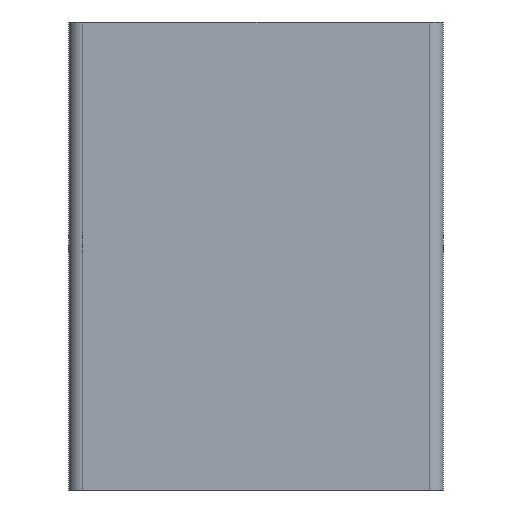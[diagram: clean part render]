
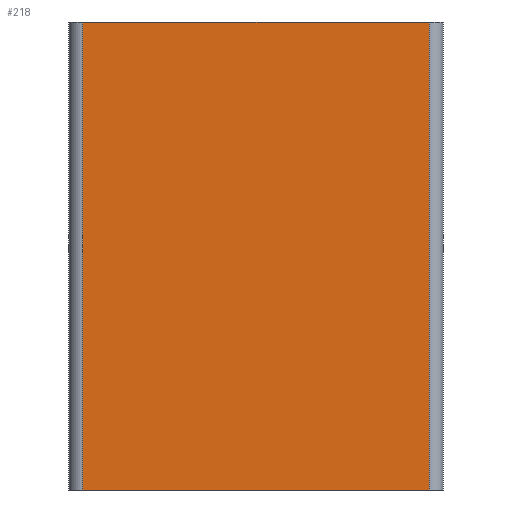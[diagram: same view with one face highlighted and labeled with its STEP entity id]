
A CAD part, left-side view. The second image highlights one B-rep face of the part: STEP entity #218.
In plain terms, the highlighted planar face has unit normal (-1, 0, 0).
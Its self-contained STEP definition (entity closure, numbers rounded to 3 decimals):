
#218=ADVANCED_FACE('',(#527),#528,.F.);
#527=FACE_OUTER_BOUND('',#926,.T.);
#528=PLANE('',#927);
#926=EDGE_LOOP('',(#1479,#1480,#1481,#1482));
#927=AXIS2_PLACEMENT_3D('',#1483,#1484,#1485);
#1479=ORIENTED_EDGE('',*,*,#2663,.T.);
#1480=ORIENTED_EDGE('',*,*,#2664,.F.);
#1481=ORIENTED_EDGE('',*,*,#2665,.F.);
#1482=ORIENTED_EDGE('',*,*,#2666,.T.);
#1483=CARTESIAN_POINT('',(0.,38.5,50.0));
#1484=DIRECTION('',(1.0,0.0,-0.0));
#1485=DIRECTION('',(0.0,0.0,1.0));
#2663=EDGE_CURVE('',#3289,#3290,#3291,.T.);
#2664=EDGE_CURVE('',#3292,#3290,#3293,.T.);
#2665=EDGE_CURVE('',#3294,#3292,#3295,.T.);
#2666=EDGE_CURVE('',#3294,#3289,#3296,.T.);
#3289=VERTEX_POINT('',#4155);
#3290=VERTEX_POINT('',#4156);
#3291=LINE('',#4157,#4158);
#3292=VERTEX_POINT('',#4159);
#3293=LINE('',#4160,#4161);
#3294=VERTEX_POINT('',#4162);
#3295=LINE('',#4163,#4164);
#3296=LINE('',#4165,#4166);
#4155=CARTESIAN_POINT('',(0.,38.5,0.0));
#4156=CARTESIAN_POINT('',(0.,1.5,0.0));
#4157=CARTESIAN_POINT('',(0.,38.5,0.0));
#4158=VECTOR('',#4988,1.0);
#4159=CARTESIAN_POINT('',(0.,1.5,50.0));
#4160=CARTESIAN_POINT('',(0.,1.5,50.0));
#4161=VECTOR('',#4989,1.0);
#4162=CARTESIAN_POINT('',(0.,38.5,50.0));
#4163=CARTESIAN_POINT('',(0.,38.5,50.0));
#4164=VECTOR('',#4990,1.0);
#4165=CARTESIAN_POINT('',(0.,38.5,50.0));
#4166=VECTOR('',#4991,1.0);
#4988=DIRECTION('',(0.0,-1.0,0.0));
#4989=DIRECTION('',(0.0,0.0,-1.0));
#4990=DIRECTION('',(0.0,-1.0,0.0));
#4991=DIRECTION('',(0.0,0.0,-1.0));
